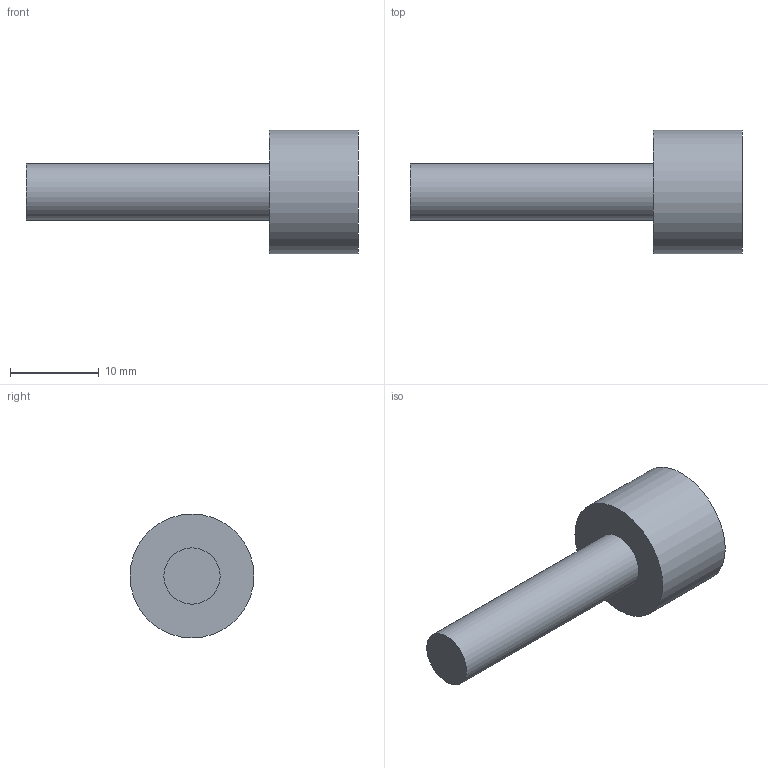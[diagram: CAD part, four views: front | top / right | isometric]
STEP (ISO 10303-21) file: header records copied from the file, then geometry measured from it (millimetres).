
FILE_DESCRIPTION(('Open CASCADE Model'),'2;1');
FILE_NAME('Open CASCADE Shape Model','2026-10-16T05:25:08',('Author'),( 'Open CASCADE'),'Open CASCADE STEP processor 7.9','Open CASCADE 7.9' ,'Unknown');
FILE_SCHEMA(('AUTOMOTIVE_DESIGN { 1 0 10303 214 1 1 1 1 }'));
Length unit declared in the file: millimetre
Products named in the file (1): Open CASCADE STEP translator 7.9 13
Bounding box: 37.5 x 14 x 14 mm (x, y, z)
Volume: 2410.3 mm3; surface area: 1296.3 mm2
Topology: 1 solids, 1 shells, 5 faces, 6 edges, 4 vertices
Faces by surface type: plane 3, cylinder 2
Full cylindrical faces by diameter (mm): 6.35 x1, 14 x1
Entity records: 192 total; most frequent: DIRECTION 34, CARTESIAN_POINT 28, ORIENTED_EDGE 12, PCURVE 12, DEFINITIONAL_REPRESENTATION 12, AXIS2_PLACEMENT_3D 10, LINE 10, VECTOR 10
